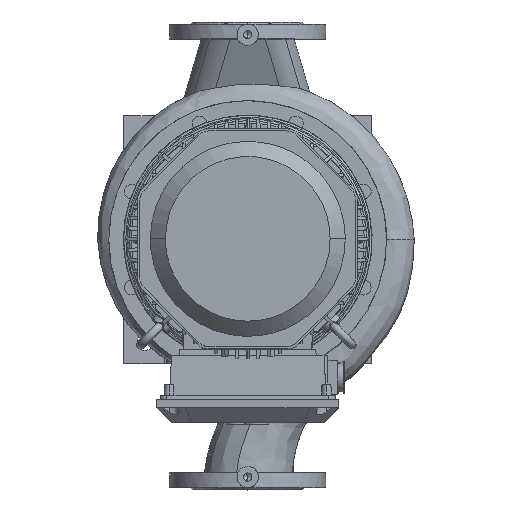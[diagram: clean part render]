
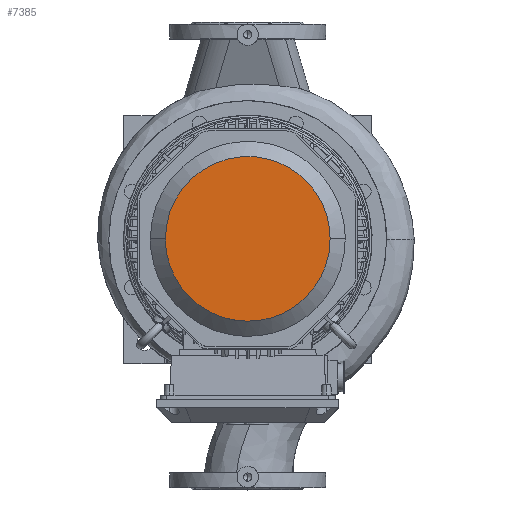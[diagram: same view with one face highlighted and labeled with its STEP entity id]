
A CAD part, top view. The second image highlights one B-rep face of the part: STEP entity #7385.
In plain terms, the highlighted free-form (B-spline) face has degree [1, 1] with [2, 2] control points.
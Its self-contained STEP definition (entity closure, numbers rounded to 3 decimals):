
#7385=ADVANCED_FACE('      F3',(#17804),#17805,.T.);
#7467=EDGE_CURVE('     E20',#17930,#17931,#17932,.T.);
#7471=EDGE_CURVE('     E20',#17931,#17930,#17936,.T.);
#17804=FACE_OUTER_BOUND('',#35954,.T.);
#17805=B_SPLINE_SURFACE_WITH_KNOTS('',1,1,((#35955,#35956),(#35957,#35958)),.UNSPECIFIED.,.F.,.F.,.F.,(2,2),(2,2),(0.044,0.955),(0.039,0.96),.UNSPECIFIED.);
#17930=VERTEX_POINT('',#36399);
#17931=VERTEX_POINT('',#36400);
#17932=(B_SPLINE_CURVE(2,(#36402,#36403,#36404,#36405,#36406),.UNSPECIFIED.,.F.,.F.)B_SPLINE_CURVE_WITH_KNOTS((3,2,3),(56.637,75.516,113.274),.UNSPECIFIED.)RATIONAL_B_SPLINE_CURVE((0.75,0.75,1.0,0.5,1.0))BOUNDED_CURVE()REPRESENTATION_ITEM('')GEOMETRIC_REPRESENTATION_ITEM()CURVE());
#17936=(B_SPLINE_CURVE(2,(#36420,#36421,#36422,#36423,#36424),.UNSPECIFIED.,.F.,.F.)B_SPLINE_CURVE_WITH_KNOTS((3,2,3),(0.0,37.758,56.637),.UNSPECIFIED.)RATIONAL_B_SPLINE_CURVE((1.0,0.5,1.0,0.75,0.75))BOUNDED_CURVE()REPRESENTATION_ITEM('')GEOMETRIC_REPRESENTATION_ITEM()CURVE());
#35954=EDGE_LOOP('',(#72544,#72545));
#35955=CARTESIAN_POINT('',(116.548,-116.667,-389.037));
#35956=CARTESIAN_POINT('',(116.548,116.396,-389.037));
#35957=CARTESIAN_POINT('',(-116.165,-116.667,-389.037));
#35958=CARTESIAN_POINT('',(-116.165,116.396,-389.037));
#36399=CARTESIAN_POINT('',(116.157,0.,-389.037));
#36400=CARTESIAN_POINT('',(-116.157,0.,-389.037));
#36402=CARTESIAN_POINT('',(116.157,0.,-389.037));
#36403=CARTESIAN_POINT('',(116.157,67.063,-389.037));
#36404=CARTESIAN_POINT('',(58.078,100.595,-389.037));
#36405=CARTESIAN_POINT('',(-116.157,201.189,-389.037));
#36406=CARTESIAN_POINT('',(-116.157,0.,-389.037));
#36420=CARTESIAN_POINT('',(-116.157,0.,-389.037));
#36421=CARTESIAN_POINT('',(-116.157,-201.189,-389.037));
#36422=CARTESIAN_POINT('',(58.078,-100.595,-389.037));
#36423=CARTESIAN_POINT('',(116.157,-67.063,-389.037));
#36424=CARTESIAN_POINT('',(116.157,0.,-389.037));
#72544=ORIENTED_EDGE('',*,*,#7471,.F.);
#72545=ORIENTED_EDGE('',*,*,#7467,.F.);
